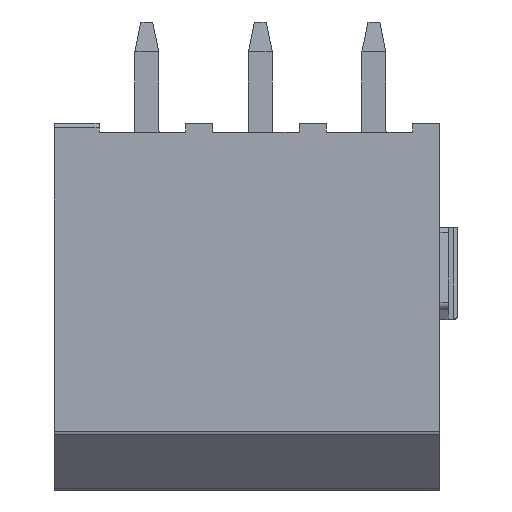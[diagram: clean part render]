
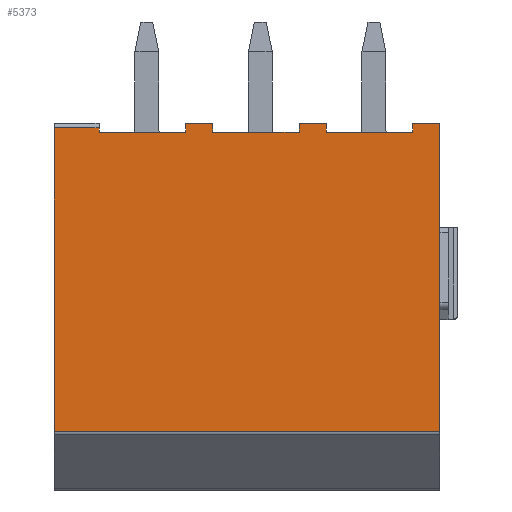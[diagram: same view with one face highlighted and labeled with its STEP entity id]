
A CAD part, left-side view. The second image highlights one B-rep face of the part: STEP entity #5373.
In plain terms, the highlighted planar face has unit normal (-1, 0, 0).
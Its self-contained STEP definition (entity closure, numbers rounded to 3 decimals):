
#657=DIRECTION('',(0.,0.,-1.));
#658=VECTOR('',#657,0.15);
#659=CARTESIAN_POINT('',(-6.7,3.81,5.95));
#660=LINE('',#659,#658);
#661=DIRECTION('',(0.,-1.,0.));
#662=VECTOR('',#661,2.9);
#663=CARTESIAN_POINT('',(-6.7,3.81,5.8));
#664=LINE('',#663,#662);
#665=DIRECTION('',(0.,0.,-1.));
#666=VECTOR('',#665,0.3);
#667=CARTESIAN_POINT('',(-6.7,0.,6.1));
#668=LINE('',#667,#666);
#669=DIRECTION('',(0.,-1.,0.));
#670=VECTOR('',#669,2.9);
#671=CARTESIAN_POINT('',(-6.7,0.,5.8));
#672=LINE('',#671,#670);
#673=DIRECTION('',(0.,0.,-1.));
#674=VECTOR('',#673,0.3);
#675=CARTESIAN_POINT('',(-6.7,-3.81,6.1));
#676=LINE('',#675,#674);
#677=DIRECTION('',(0.,-1.,0.));
#678=VECTOR('',#677,2.9);
#679=CARTESIAN_POINT('',(-6.7,-3.81,5.8));
#680=LINE('',#679,#678);
#681=DIRECTION('',(0.,0.,-1.));
#682=VECTOR('',#681,10.34);
#683=CARTESIAN_POINT('',(-6.7,-7.62,6.1));
#684=LINE('',#683,#682);
#689=DIRECTION('',(0.,-1.,0.));
#690=VECTOR('',#689,12.93);
#691=CARTESIAN_POINT('',(-6.7,5.31,-4.24));
#692=LINE('',#691,#690);
#735=DIRECTION('',(0.,0.,-1.));
#736=VECTOR('',#735,10.19);
#737=CARTESIAN_POINT('',(-6.7,5.31,5.95));
#738=LINE('',#737,#736);
#912=DIRECTION('',(0.,1.,0.));
#913=VECTOR('',#912,1.5);
#914=CARTESIAN_POINT('',(-6.7,3.81,5.95));
#915=LINE('',#914,#913);
#1647=DIRECTION('',(0.,1.,0.));
#1648=VECTOR('',#1647,0.91);
#1649=CARTESIAN_POINT('',(-6.7,-7.62,6.1));
#1650=LINE('',#1649,#1648);
#1671=DIRECTION('',(0.,0.,-1.));
#1672=VECTOR('',#1671,0.3);
#1673=CARTESIAN_POINT('',(-6.7,-6.71,6.1));
#1674=LINE('',#1673,#1672);
#3024=DIRECTION('',(0.,0.,-1.));
#3025=VECTOR('',#3024,0.3);
#3026=CARTESIAN_POINT('',(-6.7,0.91,6.1));
#3027=LINE('',#3026,#3025);
#3036=DIRECTION('',(0.,1.,0.));
#3037=VECTOR('',#3036,0.91);
#3038=CARTESIAN_POINT('',(-6.7,0.,6.1));
#3039=LINE('',#3038,#3037);
#3060=DIRECTION('',(0.,0.,-1.));
#3061=VECTOR('',#3060,0.3);
#3062=CARTESIAN_POINT('',(-6.7,-2.9,6.1));
#3063=LINE('',#3062,#3061);
#3072=DIRECTION('',(0.,1.,0.));
#3073=VECTOR('',#3072,0.91);
#3074=CARTESIAN_POINT('',(-6.7,-3.81,6.1));
#3075=LINE('',#3074,#3073);
#3339=CARTESIAN_POINT('',(-6.7,3.81,5.8));
#3341=VERTEX_POINT('',#3339);
#3379=CARTESIAN_POINT('',(-6.7,-6.71,5.8));
#3380=VERTEX_POINT('',#3379);
#3381=CARTESIAN_POINT('',(-6.7,-3.81,5.8));
#3382=VERTEX_POINT('',#3381);
#3387=CARTESIAN_POINT('',(-6.7,-2.9,5.8));
#3388=VERTEX_POINT('',#3387);
#3389=CARTESIAN_POINT('',(-6.7,0.,5.8));
#3390=VERTEX_POINT('',#3389);
#3395=CARTESIAN_POINT('',(-6.7,0.91,5.8));
#3396=VERTEX_POINT('',#3395);
#3397=CARTESIAN_POINT('',(-6.7,3.81,5.95));
#3398=VERTEX_POINT('',#3397);
#3403=CARTESIAN_POINT('',(-6.7,5.31,-4.24));
#3404=CARTESIAN_POINT('',(-6.7,-7.62,-4.24));
#3405=VERTEX_POINT('',#3403);
#3406=VERTEX_POINT('',#3404);
#3407=CARTESIAN_POINT('',(-6.7,5.31,5.95));
#3408=VERTEX_POINT('',#3407);
#3409=CARTESIAN_POINT('',(-6.7,0.91,6.1));
#3410=VERTEX_POINT('',#3409);
#3411=CARTESIAN_POINT('',(-6.7,0.,6.1));
#3412=VERTEX_POINT('',#3411);
#3413=CARTESIAN_POINT('',(-6.7,-2.9,6.1));
#3414=VERTEX_POINT('',#3413);
#3415=CARTESIAN_POINT('',(-6.7,-3.81,6.1));
#3416=VERTEX_POINT('',#3415);
#3417=CARTESIAN_POINT('',(-6.7,-6.71,6.1));
#3418=VERTEX_POINT('',#3417);
#3419=CARTESIAN_POINT('',(-6.7,-7.62,6.1));
#3420=VERTEX_POINT('',#3419);
#5338=CARTESIAN_POINT('',(-6.7,0.,-4.3));
#5339=DIRECTION('',(-1.,0.,0.));
#5340=DIRECTION('',(0.,0.,1.));
#5341=AXIS2_PLACEMENT_3D('',#5338,#5339,#5340);
#5342=PLANE('',#5341);
#5344=ORIENTED_EDGE('',*,*,#5343,.F.);
#5346=ORIENTED_EDGE('',*,*,#5345,.F.);
#5348=ORIENTED_EDGE('',*,*,#5347,.F.);
#5349=ORIENTED_EDGE('',*,*,#5327,.T.);
#5350=ORIENTED_EDGE('',*,*,#5316,.T.);
#5352=ORIENTED_EDGE('',*,*,#5351,.F.);
#5354=ORIENTED_EDGE('',*,*,#5353,.F.);
#5356=ORIENTED_EDGE('',*,*,#5355,.T.);
#5357=ORIENTED_EDGE('',*,*,#5308,.T.);
#5359=ORIENTED_EDGE('',*,*,#5358,.F.);
#5361=ORIENTED_EDGE('',*,*,#5360,.F.);
#5363=ORIENTED_EDGE('',*,*,#5362,.T.);
#5364=ORIENTED_EDGE('',*,*,#5300,.T.);
#5366=ORIENTED_EDGE('',*,*,#5365,.F.);
#5368=ORIENTED_EDGE('',*,*,#5367,.F.);
#5370=ORIENTED_EDGE('',*,*,#5369,.T.);
#5371=EDGE_LOOP('',(#5344,#5346,#5348,#5349,#5350,#5352,#5354,#5356,#5357,#5359,
#5361,#5363,#5364,#5366,#5368,#5370));
#5372=FACE_OUTER_BOUND('',#5371,.F.);
#5373=ADVANCED_FACE('',(#5372),#5342,.T.);
#5300=EDGE_CURVE('',#3382,#3380,#680,.T.);
#5308=EDGE_CURVE('',#3390,#3388,#672,.T.);
#5316=EDGE_CURVE('',#3341,#3396,#664,.T.);
#5327=EDGE_CURVE('',#3398,#3341,#660,.T.);
#5343=EDGE_CURVE('',#3405,#3406,#692,.T.);
#5345=EDGE_CURVE('',#3408,#3405,#738,.T.);
#5347=EDGE_CURVE('',#3398,#3408,#915,.T.);
#5351=EDGE_CURVE('',#3410,#3396,#3027,.T.);
#5353=EDGE_CURVE('',#3412,#3410,#3039,.T.);
#5355=EDGE_CURVE('',#3412,#3390,#668,.T.);
#5358=EDGE_CURVE('',#3414,#3388,#3063,.T.);
#5360=EDGE_CURVE('',#3416,#3414,#3075,.T.);
#5362=EDGE_CURVE('',#3416,#3382,#676,.T.);
#5365=EDGE_CURVE('',#3418,#3380,#1674,.T.);
#5367=EDGE_CURVE('',#3420,#3418,#1650,.T.);
#5369=EDGE_CURVE('',#3420,#3406,#684,.T.);
